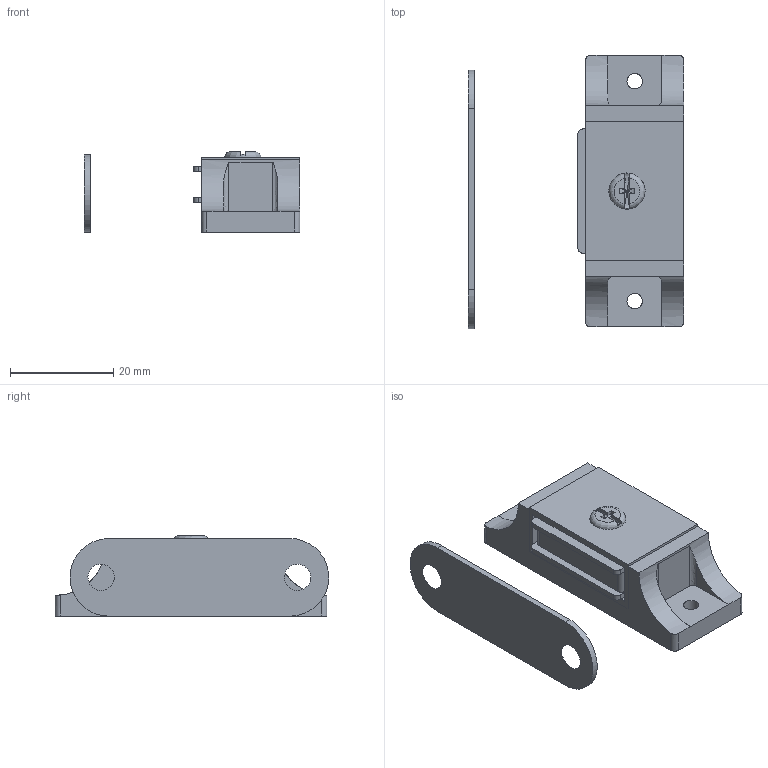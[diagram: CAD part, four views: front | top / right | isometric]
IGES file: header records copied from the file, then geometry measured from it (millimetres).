
Global section: file name: DR_B-MPVC43; native system: Autodesk Inventor 2015; preprocessor: unknown; author: Administrator; date: 20180302.182006; units: millimetre
Bounding box: 41.7 x 52.84 x 15.5 mm (x, y, z)
Volume: 9453.9 mm3; surface area: 11774 mm2
Topology: 8 solids, 8 shells, 261 faces, 630 edges, 383 vertices
Faces by surface type: bspline 261
